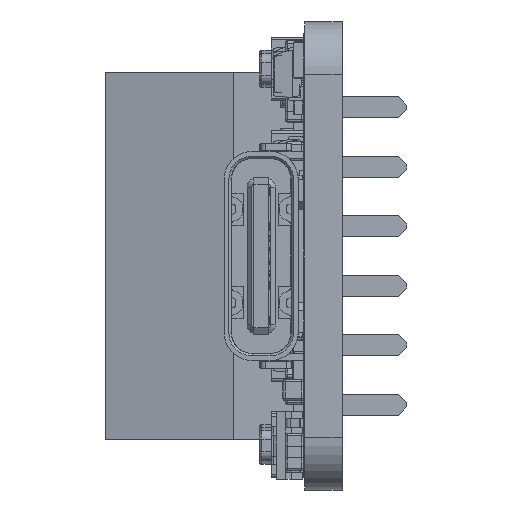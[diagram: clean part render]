
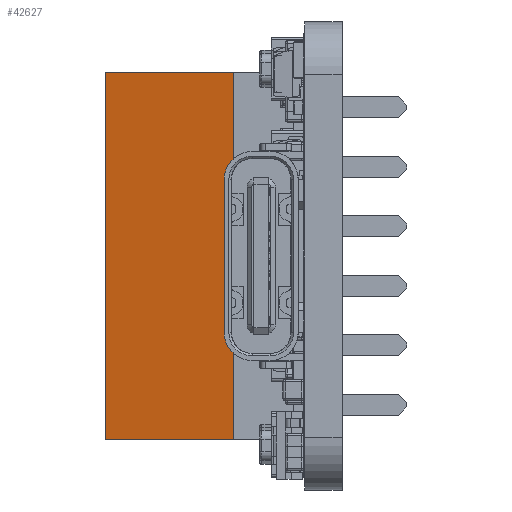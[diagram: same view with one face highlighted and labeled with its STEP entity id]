
A CAD part, left-side view. The second image highlights one B-rep face of the part: STEP entity #42627.
In plain terms, the highlighted planar face has unit normal (-0.977, 0.213, 0) as drawn and (0.977, 0.213, 0) by its records, which use the part's own axes.
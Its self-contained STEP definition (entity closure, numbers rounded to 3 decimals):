
#478 = EDGE_LOOP ( 'NONE', ( #76335, #76300, #76288, #76301 ) ) ;
#42627 = ADVANCED_FACE ( 'NONE', ( #196664 ), #181677, .T. ) ;
#48073 = EDGE_CURVE ( 'NONE', #61391, #61466, #54823, .T. ) ;
#48094 = EDGE_CURVE ( 'NONE', #61355, #61466, #54830, .T. ) ;
#48328 = EDGE_CURVE ( 'NONE', #61378, #61355, #55008, .T. ) ;
#48496 = EDGE_CURVE ( 'NONE', #61391, #61378, #55300, .T. ) ;
#51068 = CARTESIAN_POINT ( 'NONE',  ( 1.9, 8.5, 5.08 ) ) ;
#51080 = DIRECTION ( 'NONE',  ( 0., 0., 1. ) ) ;
#51086 = CARTESIAN_POINT ( 'NONE',  ( 3.1, 3., 7.85 ) ) ;
#51128 = DIRECTION ( 'NONE',  ( -0.213, 0.977, 0. ) ) ;
#51778 = DIRECTION ( 'NONE',  ( 0., 0., 1. ) ) ;
#51904 = CARTESIAN_POINT ( 'NONE',  ( 3.1, 3., 5.08 ) ) ;
#52360 = DIRECTION ( 'NONE',  ( 0.213, -0.977, 0. ) ) ;
#52480 = CARTESIAN_POINT ( 'NONE',  ( 1.9, 8.5, -7.85 ) ) ;
#54205 = CARTESIAN_POINT ( 'NONE',  ( 3.1, 3., -7.85 ) ) ;
#54211 = CARTESIAN_POINT ( 'NONE',  ( 3.1, 3., 7.85 ) ) ;
#54745 = VECTOR ( 'NONE', #51128, 1000. ) ;
#54823 = LINE ( 'NONE', #51068, #54844 ) ;
#54830 = LINE ( 'NONE', #51086, #54745 ) ;
#54844 = VECTOR ( 'NONE', #51080, 1000. ) ;
#54980 = VECTOR ( 'NONE', #51778, 1000. ) ;
#55008 = LINE ( 'NONE', #51904, #54980 ) ;
#55300 = LINE ( 'NONE', #52480, #55309 ) ;
#55309 = VECTOR ( 'NONE', #52360, 1000. ) ;
#57866 = CARTESIAN_POINT ( 'NONE',  ( 1.9, 8.5, -7.85 ) ) ;
#57957 = CARTESIAN_POINT ( 'NONE',  ( 1.9, 8.5, 7.85 ) ) ;
#61355 = VERTEX_POINT ( 'NONE', #54211 ) ;
#61378 = VERTEX_POINT ( 'NONE', #54205 ) ;
#61391 = VERTEX_POINT ( 'NONE', #57866 ) ;
#61466 = VERTEX_POINT ( 'NONE', #57957 ) ;
#76288 = ORIENTED_EDGE ( 'NONE', *, *, #48328, .F. ) ;
#76300 = ORIENTED_EDGE ( 'NONE', *, *, #48094, .F. ) ;
#76301 = ORIENTED_EDGE ( 'NONE', *, *, #48496, .F. ) ;
#76335 = ORIENTED_EDGE ( 'NONE', *, *, #48073, .T. ) ;
#181642 = DIRECTION ( 'NONE',  ( -0.213, 0.977, 0. ) ) ;
#181643 = CARTESIAN_POINT ( 'NONE',  ( 3.1, 3., 5.08 ) ) ;
#181677 = PLANE ( 'NONE',  #187209 ) ;
#181698 = DIRECTION ( 'NONE',  ( 0.977, 0.213, 0. ) ) ;
#187209 = AXIS2_PLACEMENT_3D ( 'NONE', #181643, #181698, #181642 ) ;
#196664 = FACE_OUTER_BOUND ( 'NONE', #478, .T. ) ;
